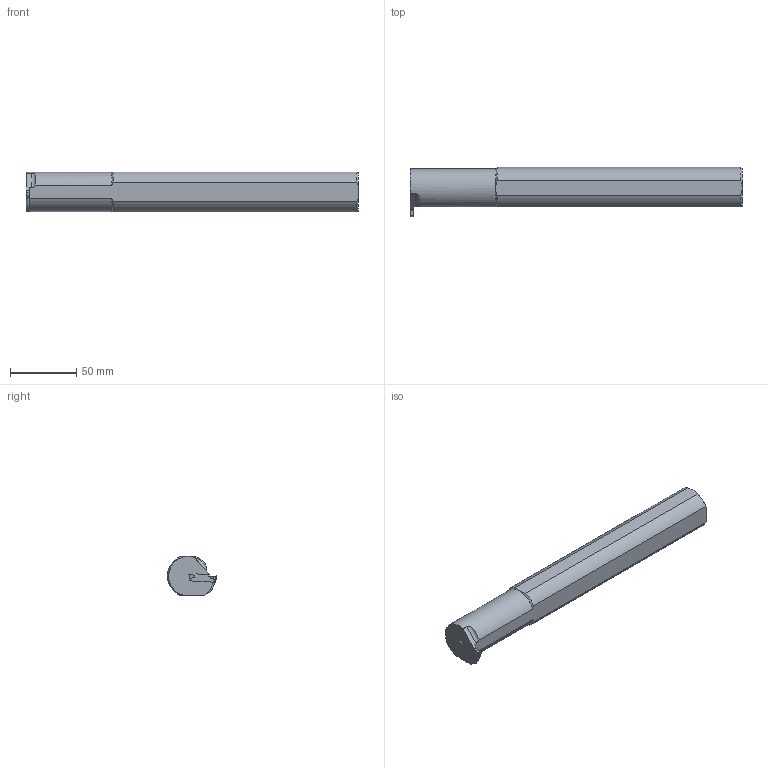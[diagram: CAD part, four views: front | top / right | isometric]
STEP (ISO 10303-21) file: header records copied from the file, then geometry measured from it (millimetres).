
FILE_DESCRIPTION(/* description */ (''),/* implementation_level */ '2;1');
FILE_NAME(/* name */ 'MGIVR24-20-3-HAAS_20200714.stp',/* time_stamp */ '2020-11-18T17:27:53+09:00',/* author */ (''),/* organization */ (''),/* preprocessor_version */ 'ST-DEVELOPER v11',/* originating_system */ 'SIEMENS UGS NX 6.0',/* authorisation */ '');
FILE_SCHEMA (('CONFIG_CONTROL_DESIGN'));
Length unit declared in the file: millimetre
Products named in the file (1): user6E78ysnq
Bounding box: 251.45 x 37.38 x 29.7 mm (x, y, z)
Volume: 174607.9 mm3; surface area: 32013.6 mm2
Topology: 2 solids, 2 shells, 61 faces, 164 edges, 107 vertices
Faces by surface type: plane 33, cylinder 15, cone 7, extrusion 4, torus 2
Full cylindrical faces by diameter (mm): 8 x1
Entity records: 2059 total; most frequent: CARTESIAN_POINT 468, ORIENTED_EDGE 320, DIRECTION 300, EDGE_CURVE 160, VERTEX_POINT 106, AXIS2_PLACEMENT_3D 101, VECTOR 98, LINE 94
